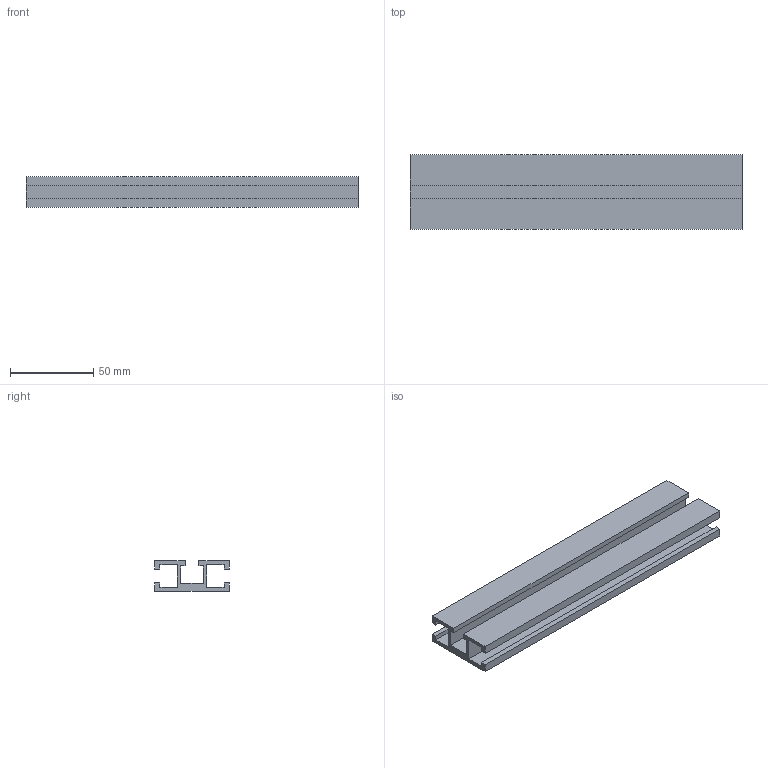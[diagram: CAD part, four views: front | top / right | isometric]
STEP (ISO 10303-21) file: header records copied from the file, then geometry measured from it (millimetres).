
FILE_DESCRIPTION (( 'STEP AP203' ), '1' );
FILE_NAME ('1.01.02.0029-profilo-alluminio-3D-18x453C-Milper.STEP', '2019-05-09T09:26:00', ( '' ), ( '' ), 'SwSTEP 2.0', 'SolidWorks 2019', '' );
FILE_SCHEMA (( 'CONFIG_CONTROL_DESIGN' ));
Length unit declared in the file: millimetre
Products named in the file (1): 1.01.02.0029-profilo-alluminio-3D-18x453C-Milper
Bounding box: 200 x 45 x 18.5 mm (x, y, z)
Volume: 63436.5 mm3; surface area: 49101.5 mm2
Topology: 1 solids, 1 shells, 30 faces, 84 edges, 56 vertices
Faces by surface type: plane 30
Entity records: 1025 total; most frequent: CARTESIAN_POINT 171, ORIENTED_EDGE 168, DIRECTION 146, EDGE_CURVE 84, LINE 84, VECTOR 84, VERTEX_POINT 56, AXIS2_PLACEMENT_3D 31
